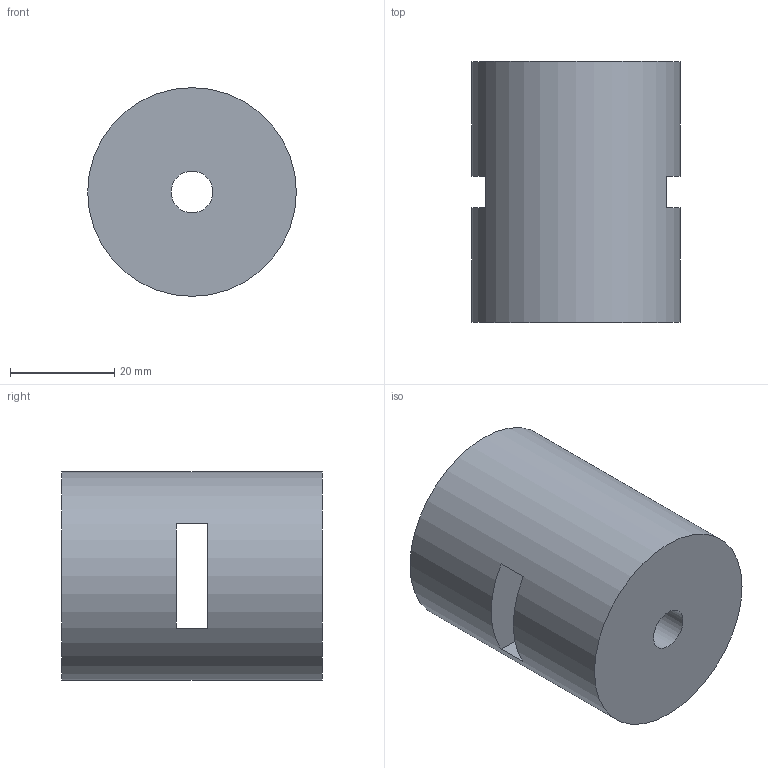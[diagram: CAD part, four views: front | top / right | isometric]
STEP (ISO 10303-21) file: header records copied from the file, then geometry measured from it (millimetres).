
FILE_DESCRIPTION(/* description */ (''),/* implementation_level */ '2;1');
FILE_NAME(/* name */ 'Payload.step',/* time_stamp */ '2026-09-01T18:30:46+04:00',/* author */ (''),/* organization */ (''),/* preprocessor_version */ 'ST-DEVELOPER v20.1',/* originating_system */ 'Autodesk Translation Framework v15.8.0.0',/* authorisation */ '');
FILE_SCHEMA (('AUTOMOTIVE_DESIGN { 1 0 10303 214 3 1 1 }'));
Length unit declared in the file: millimetre
Products named in the file (1): 2026-08-23-13-34-08-997
Bounding box: 40 x 50 x 40 mm (x, y, z)
Volume: 56028.4 mm3; surface area: 11396.2 mm2
Topology: 1 solids, 1 shells, 9 faces, 24 edges, 16 vertices
Faces by surface type: plane 6, cylinder 3
Full cylindrical faces by diameter (mm): 8 x2, 40 x1
Entity records: 342 total; most frequent: DIRECTION 56, CARTESIAN_POINT 50, ORIENTED_EDGE 48, EDGE_CURVE 24, AXIS2_PLACEMENT_3D 22, VERTEX_POINT 16, EDGE_LOOP 14, CIRCLE 12
